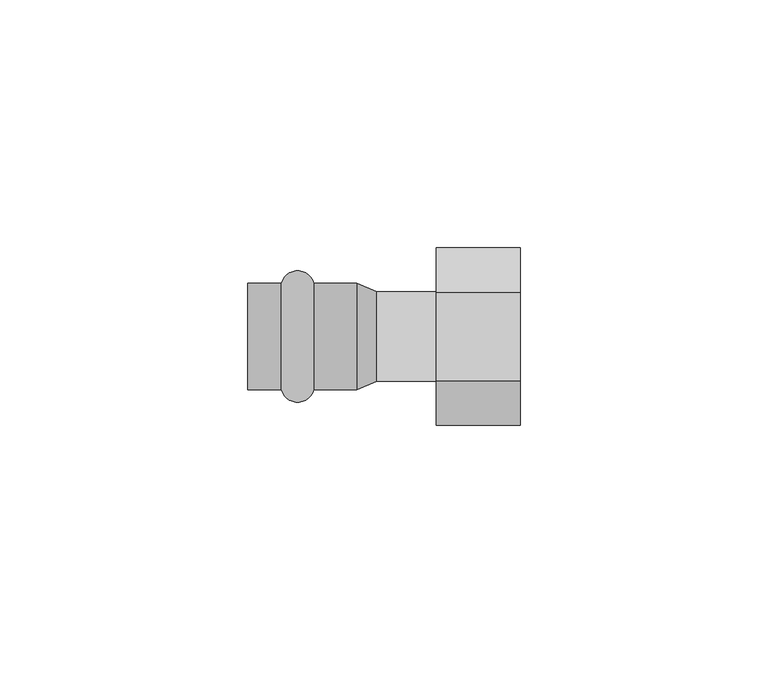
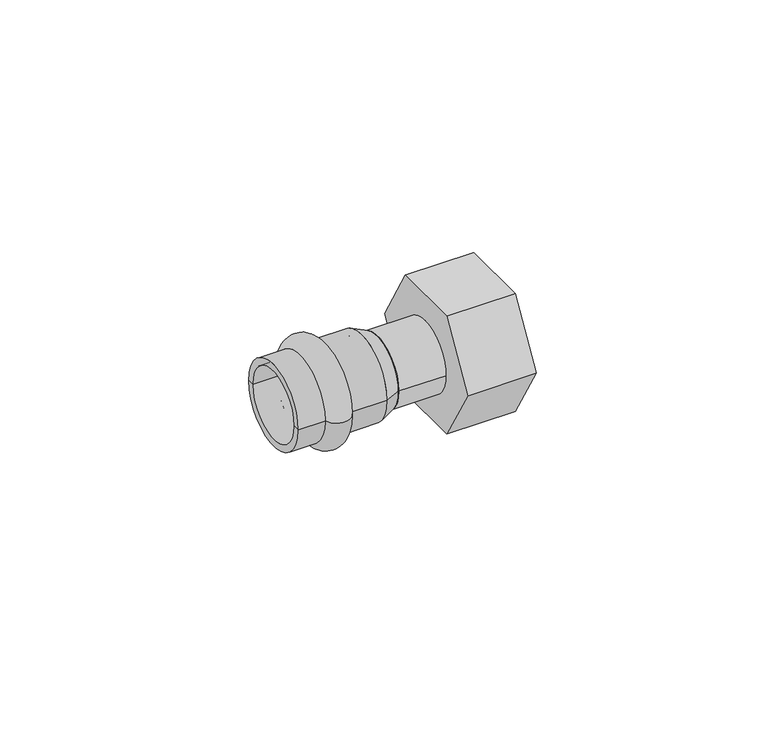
"""IFC4 building model written with IfcOpenShell, lengths in millimetres: pipe fitting geometry, VALTEC_VTi.902.I_Соединитель прямой с переходом на внутреннюю резьбу_Нержавеющая сталь : VTi.902.I."""

from ifc_helpers import new_model, si_unit, point, frame, origin, origin_2d, place, context, project, spatial, polyline, circle_curve, ellipse_curve, trimmed, segment, composite_curve, outline, extrude, source, transform, mapped, element, save
from ifc_brep_helpers import plane_surface, cylinder_surface, revolved_surface, advanced_brep


def pipe_fitting_2ce52e64(model_context):
    return source(origin(), model_context, "Body", "SolidModel", [
        advanced_brep(
        [(-39.7287193, -10.75, 0.0), (-39.7287193, 10.75, 0.0), (-33.1712807, 10.75, 0.0), (-33.1712807, -10.75, 0.0), (-46.5, -10.75, 0.0), (-46.5, 10.75, 0.0), (-46.5, -9.0, 0.0), (-46.5, 9.0, 0.0), (-24.5, -9.0, 0.0), (-24.5, 9.0, 0.0), (-24.5, -10.75, 0.0), (-24.5, 10.75, 0.0)],
        [
            (0, 1, circle_curve(frame((-39.7287193, 0.0, 0.0), z_axis=(1.0, 0.0, 0.0), x_axis=(0.0, 1.0, 0.0)), 10.75)),
            (1, 2, circle_curve(frame((-36.45, 9.85, 0.0), z_axis=(0.0, 0.0, -1.0), x_axis=(1.0, 0.0, 0.0)), 3.4)),
            (2, 3, circle_curve(frame((-33.1712807, 0.0, 0.0), z_axis=(-1.0, 0.0, 0.0), x_axis=(0.0, 1.0, 0.0)), 10.75)),
            (3, 0, circle_curve(frame((-36.45, -9.85, 0.0), z_axis=(0.0, 0.0, -1.0), x_axis=(1.0, 0.0, 0.0)), 3.4)),
            (1, 0, circle_curve(frame((-39.7287193, 0.0, 0.0), z_axis=(1.0, 0.0, 0.0), x_axis=(0.0, 1.0, 0.0)), 10.75)),
            (3, 2, circle_curve(frame((-33.1712807, 0.0, 0.0), z_axis=(-1.0, 0.0, 0.0), x_axis=(0.0, 1.0, 0.0)), 10.75)),
            (4, 5, circle_curve(frame((-46.5, 0.0, 0.0), z_axis=(1.0, 0.0, 0.0), x_axis=(0.0, 1.0, 0.0)), 10.75)),
            (5, 1),
            (0, 4),
            (5, 4, circle_curve(frame((-46.5, 0.0, 0.0), z_axis=(1.0, 0.0, 0.0), x_axis=(0.0, 1.0, 0.0)), 10.75)),
            (6, 7, circle_curve(frame((-46.5, 0.0, 0.0), z_axis=(1.0, 0.0, 0.0), x_axis=(0.0, 1.0, 0.0)), 9.0)),
            (7, 5),
            (4, 6),
            (7, 6, circle_curve(frame((-46.5, 0.0, 0.0), z_axis=(1.0, 0.0, 0.0), x_axis=(0.0, 1.0, 0.0)), 9.0)),
            (8, 9, circle_curve(frame((-24.5, 0.0, 0.0), z_axis=(1.0, 0.0, 0.0), x_axis=(0.0, 1.0, 0.0)), 9.0)),
            (9, 7),
            (6, 8),
            (9, 8, circle_curve(frame((-24.5, 0.0, 0.0), z_axis=(1.0, 0.0, 0.0), x_axis=(0.0, 1.0, 0.0)), 9.0)),
            (10, 11, circle_curve(frame((-24.5, 0.0, 0.0), z_axis=(1.0, 0.0, 0.0), x_axis=(0.0, 1.0, 0.0)), 10.75)),
            (11, 9),
            (8, 10),
            (11, 10, circle_curve(frame((-24.5, 0.0, 0.0), z_axis=(1.0, 0.0, 0.0), x_axis=(0.0, 1.0, 0.0)), 10.75)),
            (2, 11),
            (10, 3),
        ],
        [
            revolved_surface(trimmed(ellipse_curve(frame((-36.45, 9.85, 0.0), z_axis=(0.0, 0.0, 1.0), x_axis=(1.0, 0.0, 0.0)), 3.4, 3.4), [point((-33.1712807, 10.75, 0.0))], [point((-39.7287193, 10.75, 0.0))], True, "CARTESIAN"), (-50.0364426, 0.0, 0.0), (-1.0, 0.0, 0.0)),
            cylinder_surface(frame((-50.0364426, 0.0, 0.0), z_axis=(-1.0, 0.0, 0.0), x_axis=(0.0, 1.0, 0.0)), 10.75),
            plane_surface(frame((-46.5, 0.0, 0.0), z_axis=(-1.0, 0.0, 0.0), x_axis=(0.0, 1.0, 0.0))),
            revolved_surface(polyline([(-46.5, 9.0, 0.0), (-24.5, 9.0, 0.0)]), (-50.0364426, 0.0, 0.0), (-1.0, 0.0, 0.0)),
            plane_surface(frame((-24.5, 0.0, 0.0), z_axis=(1.0, 0.0, 0.0), x_axis=(0.0, 1.0, 0.0))),
        ],
        [
            (0, [[1, 2, 3, 4]]),
            (0, [[5, -4, 6, -2]]),
            (1, [[7, 8, -1, 9]]),
            (1, [[10, -9, -5, -8]]),
            (2, [[11, 12, -7, 13]]),
            (2, [[14, -13, -10, -12]]),
            (3, [[15, 16, -11, 17]]),
            (3, [[18, -17, -14, -16]]),
            (4, [[19, 20, -15, 21]]),
            (4, [[22, -21, -18, -20]]),
            (1, [[-3, 23, -19, 24]]),
            (1, [[-6, -24, -22, -23]]),
        ],
    ),
        extrude(outline(polyline([(-17.8978583, 0.0), (-8.9489292, 15.5), (8.9489292, 15.5), (17.8978583, 0.0), (8.9489292, -15.5), (-8.9489292, -15.5), (-17.8978583, 0.0)])), frame((-8.5, 0.0, 0.0), z_axis=(1.0, 0.0, 0.0), x_axis=(0.0, 1.0, 0.0)), (0.0, 0.0, 1.0), 17.0),
        extrude(outline(composite_curve([segment(trimmed(circle_curve(origin_2d(), 9.0), [point((-9.0, 0.0))], [point((9.0, 0.0))], False, "CARTESIAN"), True, "CONTINUOUS"), segment(trimmed(circle_curve(origin_2d(), 9.0), [point((9.0, 0.0))], [point((-9.0, 0.0))], False, "CARTESIAN"), True, "CONTINUOUS")], self_intersect=False)), frame((-20.5, 0.0, 0.0), z_axis=(1.0, 0.0, 0.0), x_axis=(0.0, 1.0, 0.0)), (0.0, 0.0, 1.0), 12.0),
        advanced_brep(
        [(-20.5, -9.0, 0.0), (-20.5, 9.0, 0.0), (-24.5, -10.75, 0.0), (-24.5, 10.75, 0.0)],
        [
            (0, 1, circle_curve(frame((-20.5, 0.0, 0.0), z_axis=(1.0, 0.0, 0.0), x_axis=(0.0, -1.0, 0.0)), 9.0)),
            (1, 0, circle_curve(frame((-20.5, 0.0, 0.0), z_axis=(1.0, 0.0, 0.0), x_axis=(0.0, 1.0, 0.0)), 9.0)),
            (2, 3, circle_curve(frame((-24.5, 0.0, 0.0), z_axis=(-1.0, 0.0, 0.0), x_axis=(0.0, 1.0, 0.0)), 10.75)),
            (3, 2, circle_curve(frame((-24.5, 0.0, 0.0), z_axis=(-1.0, 0.0, 0.0), x_axis=(0.0, -1.0, 0.0)), 10.75)),
            (3, 1),
            (0, 2),
        ],
        [
            plane_surface(frame((-20.5, 0.0, 0.0), z_axis=(1.0, 0.0, 0.0), x_axis=(0.0, 0.0, -1.0))),
            plane_surface(frame((-24.5, 0.0, 0.0), z_axis=(-1.0, 0.0, 0.0), x_axis=(0.0, 0.0, -1.0))),
            revolved_surface(polyline([(-20.5, -9.000000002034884, 0.0), (-24.5, -10.75, 0.0)]), (0.0714286, 0.0, 0.0), (-1.0, 0.0, 0.0)),
            revolved_surface(polyline([(-20.5, 9.000000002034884, 0.0), (-24.5, 10.75, 0.0)]), (0.0714286, 0.0, 0.0), (-1.0, 0.0, 0.0)),
        ],
        [
            (0, [[1, 2]]),
            (1, [[3, 4]]),
            (2, [[-4, 5, -1, 6]]),
            (3, [[-3, -6, -2, -5]]),
        ],
    ),
    ])


if __name__ == "__main__":
    model = new_model("IFC4")
    model_context = context("Model", 3, world=origin())
    ifc_project = project(units=[si_unit("LENGTHUNIT", "METRE", prefix="MILLI")], contexts=[model_context])
    site = spatial("IfcSite", under=ifc_project)
    building = spatial("IfcBuilding", under=site)
    placement = place(None, origin())
    pipe_fitting_shape = pipe_fitting_2ce52e64(model_context)
    element("IfcPipeFitting", 1, ObjectType="VALTEC_VTi.902.I_Соединитель прямой с переходом на внутреннюю резьбу_Нержавеющая сталь : VTi.902.I", at=placement, inside=building, context=model_context, shape_type="MappedRepresentation", body=[
        mapped(pipe_fitting_shape, transform((0.0, 0.0, 0.0), x_axis=(1.0, 0.0, 0.0), y_axis=(0.0, 1.0, 0.0), z_axis=(0.0, 0.0, 1.0))),
    ])
    save(model, "model.ifc")
